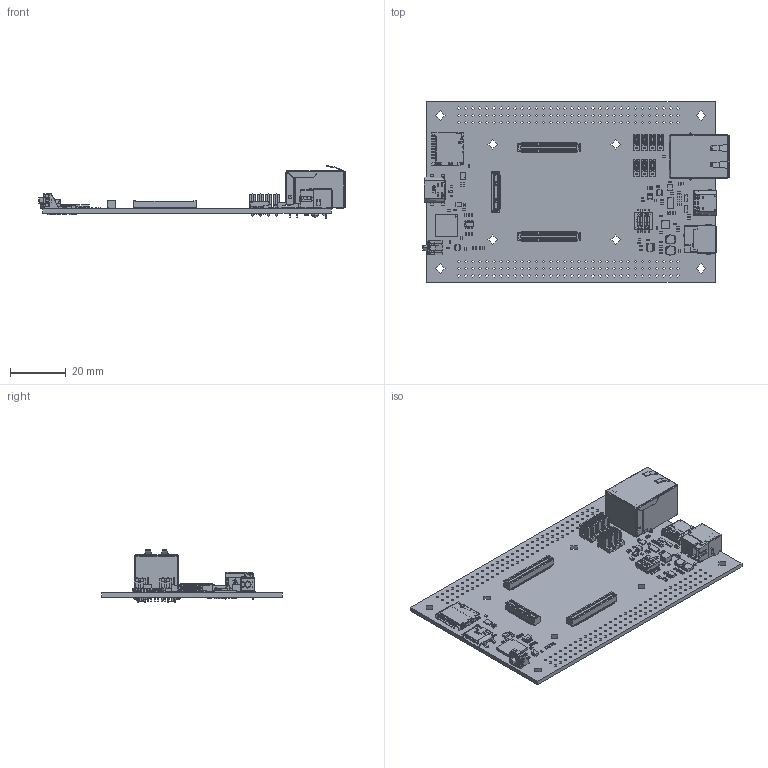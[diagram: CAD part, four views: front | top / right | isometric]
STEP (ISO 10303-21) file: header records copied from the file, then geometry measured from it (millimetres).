
FILE_DESCRIPTION(('KiCad electronic assembly'),'2;1');
FILE_NAME('xlc2201-01_carrier.step','2025-08-01T09:59:49',('Pcbnew'),( 'Kicad'),'Open CASCADE STEP processor 7.6','KiCad to STEP converter' ,'Unknown');
FILE_SCHEMA(('AUTOMOTIVE_DESIGN { 1 0 10303 214 1 1 1 1 }'));
Length unit declared in the file: millimetre
Products named in the file (2935): xlc2201-01_carrier 1; SC-88A; R_0402_1005Metric; Solid1; Solid2; Solid3; C_0402_1005Metric; TENSILITY_54-00127; 54-00127_54-00127; FB_0402_1005Metric; NX3020_SC-88_SOT363; part; SAMTEC_TMM-103-03-L-S_with_jumper; TMM-103-03-L-S_body; TMM-103-03-L-S_pins1; TMM-103-03-L-S_pins2; 89129; 90096; TPSM828303ARDSR; NEXPERIA_PCMF1USB3SZ; HIROSE_DM3D-SF; Card Detection Switch A; Card Detection Switch B; Sheet 1; Sheet 2; Shield Cover; Housing; Pin 1; Pin 2; Pin 3; Pin 4; Pin 5; Pin 6; Pin 7; Pin 8; NXP_NVT4858; HIROSE_DF40HC(3.0)-60DS; DF40HC(3.0)-60DS; PPAK1212-8_single; PPAK_1212_body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
Assembly tree (4069 placements, depth 4):
  xlc2201-01_carrier 1
    SC-88A
    R_0402_1005Metric  x47
      Solid1
      Solid2
      Solid2
      Solid3
    C_0402_1005Metric  x32
    TENSILITY_54-00127
      54-00127_54-00127
      54-00127_54-00127
      54-00127_54-00127
      54-00127_54-00127
      54-00127_54-00127
      54-00127_54-00127
    FB_0402_1005Metric  x3
    NX3020_SC-88_SOT363  x2
      part
      part
      part
      part
      part
      part
      part
      part
    SAMTEC_TMM-103-03-L-S_with_jumper  x7
      TMM-103-03-L-S_body
      TMM-103-03-L-S_pins1
      TMM-103-03-L-S_pins2
      89129
      90096
    TPSM828303ARDSR
    NEXPERIA_PCMF1USB3SZ
    HIROSE_DM3D-SF
      Card Detection Switch A
      Card Detection Switch B
      Sheet 1
      Sheet 2
      Shield Cover
      Housing
      Pin 1
      Pin 2
      Pin 3
      Pin 4
      Pin 5
      Pin 6
      Pin 7
      Pin 8
    NXP_NVT4858
    HIROSE_DF40HC(3.0)-60DS
      DF40HC(3.0)-60DS
      DF40HC(3.0)-60DS
      DF40HC(3.0)-60DS
      DF40HC(3.0)-60DS
      DF40HC(3.0)-60DS
      DF40HC(3.0)-60DS
      DF40HC(3.0)-60DS
      DF40HC(3.0)-60DS
      DF40HC(3.0)-60DS
      DF40HC(3.0)-60DS
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Bounding box: 109.95 x 65 x 19.27 mm (x, y, z)
Volume: 11051.3 mm3; surface area: 33087.3 mm2
Topology: 621 solids, 4665 shells, 20592 faces, 66906 edges, 51547 vertices
Faces by surface type: bspline 16853, plane 3150, cylinder 571, sphere 10, torus 6, cone 2
Full cylindrical faces by diameter (mm): 0.088 x1, 0.1 x1, 0.135 x1, 0.15 x1, 0.3 x2, 0.4 x1, 0.6 x1, 0.762 x2, 0.89 x21, 0.9 x10, 1.02 x196, 1.7 x2, 3.2 x2, 3.4 x8
Entity records: 495193 total; most frequent: CARTESIAN_POINT 196585, ORIENTED_EDGE 62464, EDGE_CURVE 39785, VERTEX_POINT 31575, B_SPLINE_CURVE_WITH_KNOTS 30130, DIRECTION 19258, FACE_BOUND 12613, EDGE_LOOP 12613
